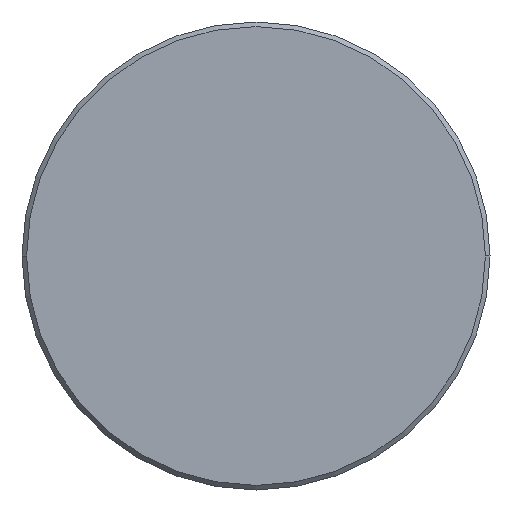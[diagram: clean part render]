
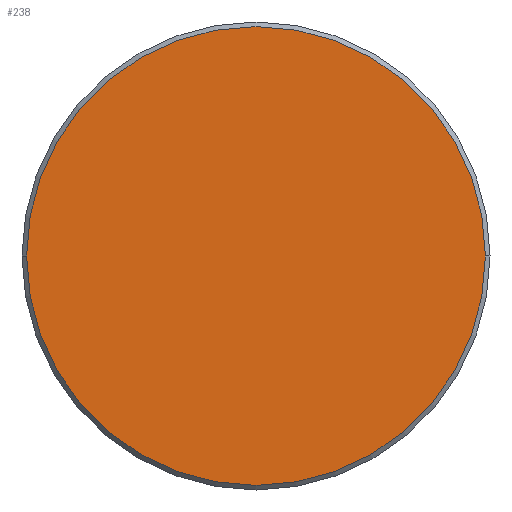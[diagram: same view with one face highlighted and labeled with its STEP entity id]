
A CAD part, left-side view. The second image highlights one B-rep face of the part: STEP entity #238.
In plain terms, the highlighted planar face has unit normal (-1, 0, 0).
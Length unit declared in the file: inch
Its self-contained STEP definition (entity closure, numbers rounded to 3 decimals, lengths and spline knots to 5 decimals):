
#3 = EDGE_CURVE ( 'NONE', #50, #10, #180, .T. ) ;
#10 = VERTEX_POINT ( 'NONE', #36 ) ;
#14 = AXIS2_PLACEMENT_3D ( 'NONE', #141, #340, #18 ) ;
#16 = CIRCLE ( 'NONE', #247, 0.19912 ) ;
#18 = DIRECTION ( 'NONE',  ( 0., -1., 0. ) ) ;
#36 = CARTESIAN_POINT ( 'NONE',  ( 0., 0.19912, 0. ) ) ;
#50 = VERTEX_POINT ( 'NONE', #70 ) ;
#66 = EDGE_CURVE ( 'NONE', #10, #50, #16, .T. ) ;
#70 = CARTESIAN_POINT ( 'NONE',  ( 0., -0.19912, 0. ) ) ;
#96 = DIRECTION ( 'NONE',  ( 0., -1., 0. ) ) ;
#117 = ORIENTED_EDGE ( 'NONE', *, *, #3, .T. ) ;
#129 = DIRECTION ( 'NONE',  ( 0., -1., 0. ) ) ;
#141 = CARTESIAN_POINT ( 'NONE',  ( 0., 0., 0. ) ) ;
#159 = EDGE_LOOP ( 'NONE', ( #195, #117 ) ) ;
#180 = CIRCLE ( 'NONE', #301, 0.19912 ) ;
#190 = FACE_OUTER_BOUND ( 'NONE', #159, .T. ) ;
#195 = ORIENTED_EDGE ( 'NONE', *, *, #66, .T. ) ;
#198 = PLANE ( 'NONE',  #14 ) ;
#238 = ADVANCED_FACE ( 'NONE', ( #190 ), #198, .T. ) ;
#247 = AXIS2_PLACEMENT_3D ( 'NONE', #338, #314, #96 ) ;
#275 = CARTESIAN_POINT ( 'NONE',  ( 0., 0., 0. ) ) ;
#276 = DIRECTION ( 'NONE',  ( -1., 0., 0. ) ) ;
#301 = AXIS2_PLACEMENT_3D ( 'NONE', #275, #276, #129 ) ;
#314 = DIRECTION ( 'NONE',  ( -1., 0., 0. ) ) ;
#338 = CARTESIAN_POINT ( 'NONE',  ( 0., 0., 0. ) ) ;
#340 = DIRECTION ( 'NONE',  ( -1., 0., 0. ) ) ;
